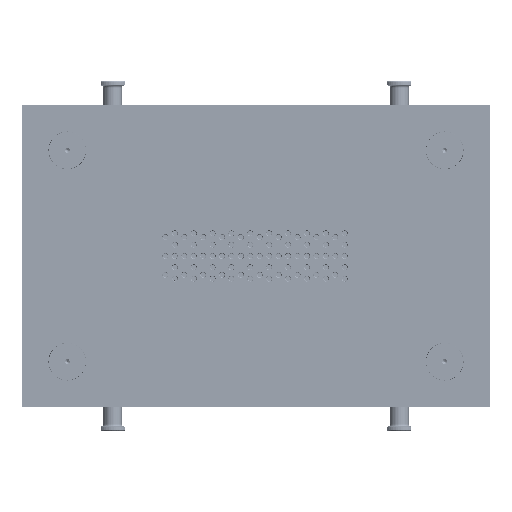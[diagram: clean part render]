
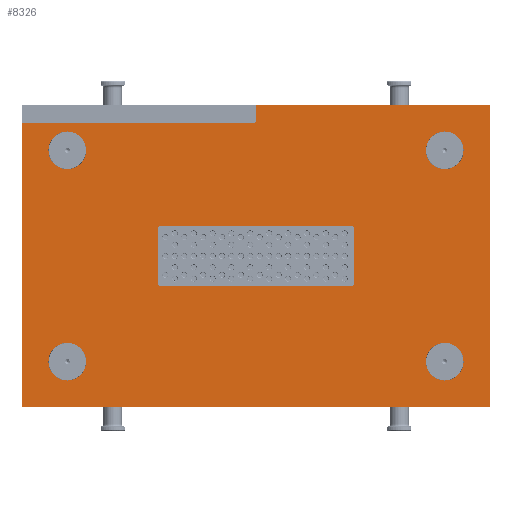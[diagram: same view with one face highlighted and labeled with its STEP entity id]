
A CAD part, left-side view. The second image highlights one B-rep face of the part: STEP entity #8326.
In plain terms, the highlighted planar face has unit normal (-1, 0, 0).
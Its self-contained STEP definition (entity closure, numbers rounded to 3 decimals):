
#8326=ADVANCED_FACE('',(#13084,#13086,#13088,#13090,#13092,#13094),#13096,.F.);
#13084=FACE_BOUND('',#13085,.T.);
#13085=EDGE_LOOP('',(#31085,#31086,#31087,#31088,#31089,#31090,#31091));
#13086=FACE_BOUND('',#13087,.T.);
#13087=EDGE_LOOP('',(#31092,#31093,#31094,#31095,#31096,#31097,#31098,#31099));
#13088=FACE_BOUND('',#13089,.T.);
#13089=EDGE_LOOP('',(#31100));
#13090=FACE_BOUND('',#13091,.T.);
#13091=EDGE_LOOP('',(#31101));
#13092=FACE_BOUND('',#13093,.T.);
#13093=EDGE_LOOP('',(#31102));
#13094=FACE_BOUND('',#13095,.T.);
#13095=EDGE_LOOP('',(#31103));
#13096=PLANE('',#13097);
#13097=AXIS2_PLACEMENT_3D('',#13098,#13099,#13100);
#13098=CARTESIAN_POINT('',(0.,0.,0.));
#13099=DIRECTION('',(1.,0.,0.));
#13100=DIRECTION('',(0.,1.,0.));
#31085=ORIENTED_EDGE('',*,*,#37250,.F.);
#31086=ORIENTED_EDGE('',*,*,#37247,.T.);
#31087=ORIENTED_EDGE('',*,*,#37179,.F.);
#31088=ORIENTED_EDGE('',*,*,#37188,.F.);
#31089=ORIENTED_EDGE('',*,*,#37186,.F.);
#31090=ORIENTED_EDGE('',*,*,#37181,.F.);
#31091=ORIENTED_EDGE('',*,*,#37251,.T.);
#31092=ORIENTED_EDGE('',*,*,#37200,.F.);
#31093=ORIENTED_EDGE('',*,*,#37214,.T.);
#31094=ORIENTED_EDGE('',*,*,#37212,.F.);
#31095=ORIENTED_EDGE('',*,*,#37211,.T.);
#31096=ORIENTED_EDGE('',*,*,#37208,.F.);
#31097=ORIENTED_EDGE('',*,*,#37206,.T.);
#31098=ORIENTED_EDGE('',*,*,#37204,.F.);
#31099=ORIENTED_EDGE('',*,*,#37202,.T.);
#31100=ORIENTED_EDGE('',*,*,#37252,.T.);
#31101=ORIENTED_EDGE('',*,*,#37253,.T.);
#31102=ORIENTED_EDGE('',*,*,#37254,.T.);
#31103=ORIENTED_EDGE('',*,*,#37255,.T.);
#37179=EDGE_CURVE('',#40348,#40342,#40350,.T.);
#37181=EDGE_CURVE('',#40352,#40354,#40355,.T.);
#37186=EDGE_CURVE('',#40354,#40362,#40363,.T.);
#37188=EDGE_CURVE('',#40362,#40348,#40365,.T.);
#37200=EDGE_CURVE('',#40386,#40388,#40389,.F.);
#37202=EDGE_CURVE('',#40391,#40388,#40392,.T.);
#37204=EDGE_CURVE('',#40391,#40394,#40395,.F.);
#37206=EDGE_CURVE('',#40397,#40394,#40398,.T.);
#37208=EDGE_CURVE('',#40397,#40400,#40401,.F.);
#37211=EDGE_CURVE('',#40403,#40400,#40405,.T.);
#37212=EDGE_CURVE('',#40403,#40406,#40407,.F.);
#37214=EDGE_CURVE('',#40386,#40406,#40409,.T.);
#37247=EDGE_CURVE('',#40471,#40342,#40474,.T.);
#37250=EDGE_CURVE('',#40471,#40478,#40479,.F.);
#37251=EDGE_CURVE('',#40352,#40478,#40480,.T.);
#37252=EDGE_CURVE('',#40481,#40481,#40482,.T.);
#37253=EDGE_CURVE('',#40483,#40483,#40484,.T.);
#37254=EDGE_CURVE('',#40485,#40485,#40486,.T.);
#37255=EDGE_CURVE('',#40487,#40487,#40488,.T.);
#40342=VERTEX_POINT('',#46303);
#40348=VERTEX_POINT('',#46315);
#40350=LINE('',#46319,#46320);
#40352=VERTEX_POINT('',#46323);
#40354=VERTEX_POINT('',#46327);
#40355=LINE('',#46328,#46329);
#40362=VERTEX_POINT('',#46347);
#40363=LINE('',#46348,#46349);
#40365=LINE('',#46354,#46355);
#40386=VERTEX_POINT('',#46407);
#40388=VERTEX_POINT('',#46411);
#40389=CIRCLE('',#46412,4.);
#40391=VERTEX_POINT('',#46419);
#40392=LINE('',#46420,#46421);
#40394=VERTEX_POINT('',#46426);
#40395=CIRCLE('',#46427,4.);
#40397=VERTEX_POINT('',#46434);
#40398=LINE('',#46435,#46436);
#40400=VERTEX_POINT('',#46441);
#40401=CIRCLE('',#46442,4.);
#40403=VERTEX_POINT('',#46449);
#40405=LINE('',#46453,#46454);
#40406=VERTEX_POINT('',#46456);
#40407=CIRCLE('',#46457,4.);
#40409=LINE('',#46464,#46465);
#40471=VERTEX_POINT('',#46618);
#40474=LINE('',#46625,#46626);
#40478=VERTEX_POINT('',#46636);
#40479=CIRCLE('',#46637,3.);
#40480=LINE('',#46641,#46642);
#40481=VERTEX_POINT('',#46644);
#40482=CIRCLE('',#46645,25.);
#40483=VERTEX_POINT('',#46649);
#40484=CIRCLE('',#46650,25.);
#40485=VERTEX_POINT('',#46654);
#40486=CIRCLE('',#46655,25.);
#40487=VERTEX_POINT('',#46659);
#40488=CIRCLE('',#46660,25.);
#46303=CARTESIAN_POINT('',(0.,620.,376.));
#46315=CARTESIAN_POINT('',(0.,620.,0.));
#46319=CARTESIAN_POINT('',(0.,620.,0.));
#46320=VECTOR('',#46321,1.);
#46321=DIRECTION('',(0.,0.,1.));
#46323=CARTESIAN_POINT('',(0.,310.,400.));
#46327=CARTESIAN_POINT('',(0.,0.,400.));
#46328=CARTESIAN_POINT('',(0.,310.,400.));
#46329=VECTOR('',#46330,1.);
#46330=DIRECTION('',(0.,-1.,0.));
#46347=CARTESIAN_POINT('',(0.,0.,0.));
#46348=CARTESIAN_POINT('',(0.,0.,400.));
#46349=VECTOR('',#46350,1.);
#46350=DIRECTION('',(0.,0.,-1.));
#46354=CARTESIAN_POINT('',(0.,0.,0.));
#46355=VECTOR('',#46356,1.);
#46356=DIRECTION('',(0.,1.,0.));
#46407=CARTESIAN_POINT('',(0.,436.,240.));
#46411=CARTESIAN_POINT('',(0.,440.,236.));
#46412=AXIS2_PLACEMENT_3D('',#46413,#46414,#46415);
#46413=CARTESIAN_POINT('',(0.,436.,236.));
#46414=DIRECTION('',(1.,0.,0.));
#46415=DIRECTION('',(0.,1.,0.));
#46419=CARTESIAN_POINT('',(0.,440.,164.));
#46420=CARTESIAN_POINT('',(0.,440.,164.));
#46421=VECTOR('',#46422,1.);
#46422=DIRECTION('',(0.,0.,1.));
#46426=CARTESIAN_POINT('',(0.,436.,160.));
#46427=AXIS2_PLACEMENT_3D('',#46428,#46429,#46430);
#46428=CARTESIAN_POINT('',(0.,436.,164.));
#46429=DIRECTION('',(1.,0.,0.));
#46430=DIRECTION('',(0.,0.,-1.));
#46434=CARTESIAN_POINT('',(0.,184.,160.));
#46435=CARTESIAN_POINT('',(0.,184.,160.));
#46436=VECTOR('',#46437,1.);
#46437=DIRECTION('',(0.,1.,0.));
#46441=CARTESIAN_POINT('',(0.,180.,164.));
#46442=AXIS2_PLACEMENT_3D('',#46443,#46444,#46445);
#46443=CARTESIAN_POINT('',(0.,184.,164.));
#46444=DIRECTION('',(1.,0.,0.));
#46445=DIRECTION('',(0.,-1.,0.));
#46449=CARTESIAN_POINT('',(0.,180.,236.));
#46453=CARTESIAN_POINT('',(0.,180.,236.));
#46454=VECTOR('',#46455,1.);
#46455=DIRECTION('',(0.,0.,-1.));
#46456=CARTESIAN_POINT('',(0.,184.,240.));
#46457=AXIS2_PLACEMENT_3D('',#46458,#46459,#46460);
#46458=CARTESIAN_POINT('',(0.,184.,236.));
#46459=DIRECTION('',(1.,0.,0.));
#46460=DIRECTION('',(0.,0.,1.));
#46464=CARTESIAN_POINT('',(0.,436.,240.));
#46465=VECTOR('',#46466,1.);
#46466=DIRECTION('',(0.,-1.,0.));
#46618=CARTESIAN_POINT('',(0.,313.,376.));
#46625=CARTESIAN_POINT('',(0.,313.,376.));
#46626=VECTOR('',#46627,1.);
#46627=DIRECTION('',(0.,1.,0.));
#46636=CARTESIAN_POINT('',(0.,310.,379.));
#46637=AXIS2_PLACEMENT_3D('',#46638,#46639,#46640);
#46638=CARTESIAN_POINT('',(0.,313.,379.));
#46639=DIRECTION('',(1.,0.,0.));
#46640=DIRECTION('',(0.,-1.,0.));
#46641=CARTESIAN_POINT('',(0.,310.,400.));
#46642=VECTOR('',#46643,1.);
#46643=DIRECTION('',(0.,0.,-1.));
#46644=CARTESIAN_POINT('',(0.,585.,340.));
#46645=AXIS2_PLACEMENT_3D('',#46646,#46647,#46648);
#46646=CARTESIAN_POINT('',(0.,560.,340.));
#46647=DIRECTION('',(1.,0.,0.));
#46648=DIRECTION('',(0.,1.,0.));
#46649=CARTESIAN_POINT('',(0.,585.,60.));
#46650=AXIS2_PLACEMENT_3D('',#46651,#46652,#46653);
#46651=CARTESIAN_POINT('',(0.,560.,60.));
#46652=DIRECTION('',(1.,0.,0.));
#46653=DIRECTION('',(0.,1.,0.));
#46654=CARTESIAN_POINT('',(0.,85.,60.));
#46655=AXIS2_PLACEMENT_3D('',#46656,#46657,#46658);
#46656=CARTESIAN_POINT('',(0.,60.,60.));
#46657=DIRECTION('',(1.,0.,0.));
#46658=DIRECTION('',(0.,1.,0.));
#46659=CARTESIAN_POINT('',(0.,85.,340.));
#46660=AXIS2_PLACEMENT_3D('',#46661,#46662,#46663);
#46661=CARTESIAN_POINT('',(0.,60.,340.));
#46662=DIRECTION('',(1.,0.,0.));
#46663=DIRECTION('',(0.,1.,0.));
